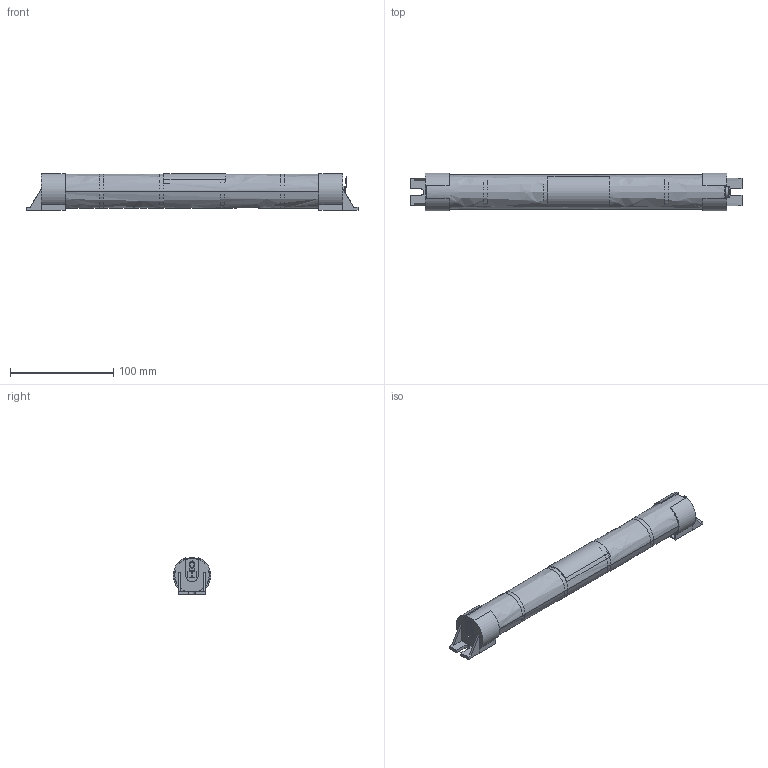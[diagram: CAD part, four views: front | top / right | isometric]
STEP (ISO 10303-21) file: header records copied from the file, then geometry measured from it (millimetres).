
FILE_DESCRIPTION((''),'2;1');
FILE_NAME('15012487Z_DMEC_89800086_5A-50','2018-07-11T13:59:35',('Emanuel.Wild'),(''),'CREO PARAMETRIC BY PTC INC, 2017380','CREO PARAMETRIC BY PTC INC, 2017380','');
FILE_SCHEMA(('AUTOMOTIVE_DESIGN { 1 0 10303 214 1 1 1 1 }'));
Length unit declared in the file: millimetre
Products named in the file (1): 15012487Z_DMEC_89800086_5A-50
Bounding box: 321.75 x 36.5 x 35.57 mm (x, y, z)
Volume: 250347.5 mm3; surface area: 55348.4 mm2
Topology: 1 solids, 7 shells, 272 faces, 713 edges, 460 vertices
Faces by surface type: bspline 173, revolution 87, extrusion 12
Entity records: 11607 total; most frequent: CARTESIAN_POINT 5145, ORIENTED_EDGE 1418, DIRECTION 913, EDGE_CURVE 713, VERTEX_POINT 460, VECTOR 392, LINE 380, EDGE_LOOP 283
